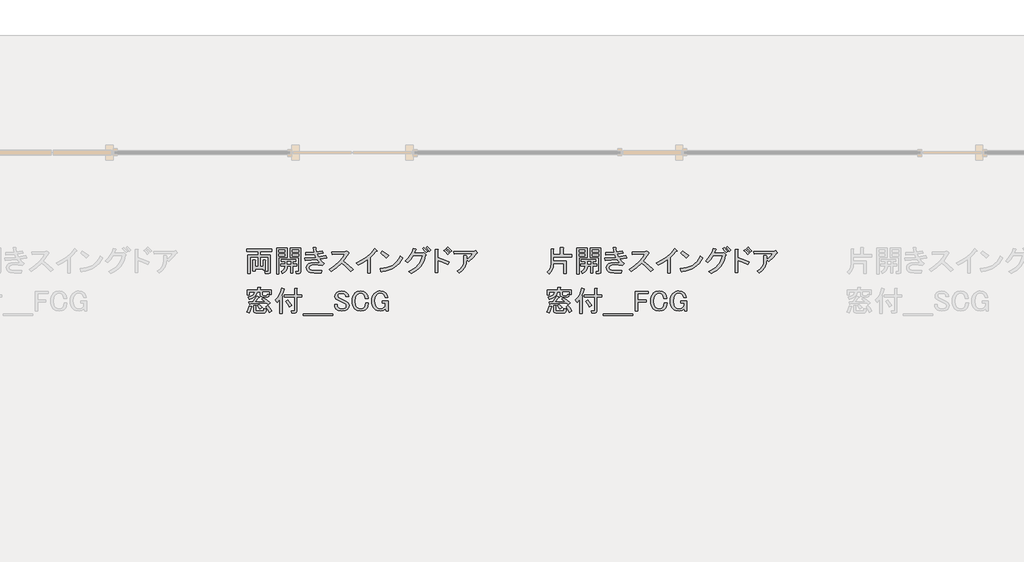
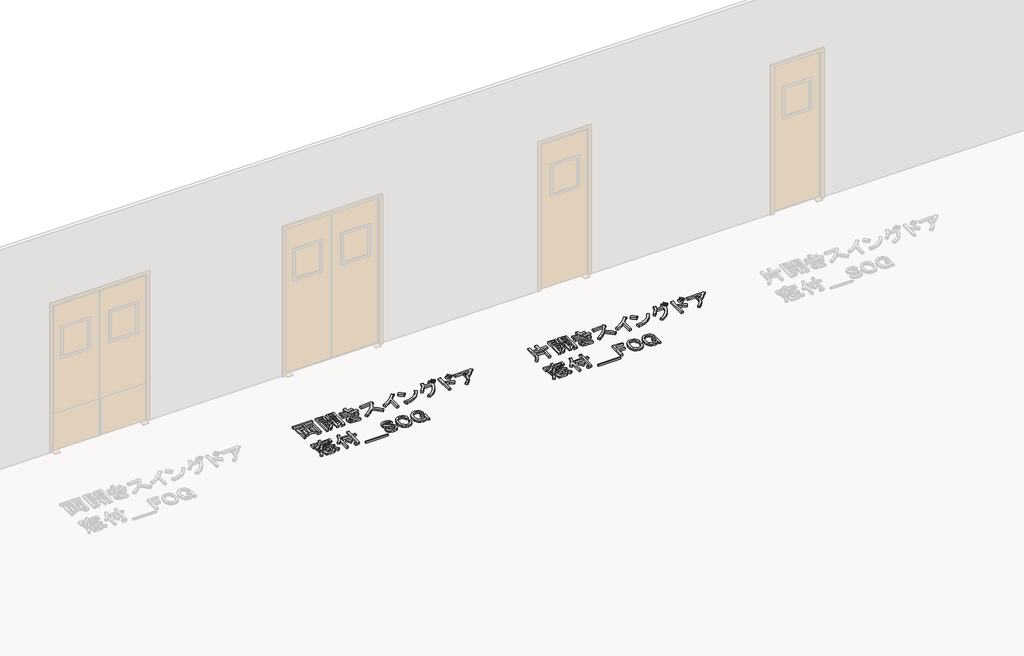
# One storey, part 78 of 117: 2 proxies.
"""IFC4 building model written with IfcOpenShell, lengths in millimetres."""

from ifc_helpers import new_model, si_unit, frame, origin, place, context, project, spatial, polyline, outline, extrude, element, save

model = new_model("IFC4")

# Units and contexts
model_context = context("Model", 3, world=origin())
ifc_project = project(units=[si_unit("LENGTHUNIT", "METRE", prefix="MILLI")], contexts=[model_context])

# Site, building, storey
site = spatial("IfcSite", under=ifc_project)
building = spatial("IfcBuilding", under=site)
storey = spatial("IfcBuildingStorey", under=building, Name="レベル 1", Elevation=500.0)

# Proxies
placement = place(None, origin())
element("IfcBuildingElementProxy", 1, Name="200㎜\u3000MS Pゴシック", ObjectType="200㎜\u3000MS Pゴシック", at=placement, inside=storey, context=model_context, shape_type="SweptSolid", body=[
    extrude(outline(polyline([(-21019.8425516, 31011.7252868), (-21019.8425516, 30976.0920778), (-20918.6902167, 30976.0920778), (-20918.6902167, 30807.1217001), (-20922.7133209, 30795.0523874), (-20934.7826336, 30791.0292832), (-20970.4158425, 30791.0292832), (-20973.8642176, 30812.8689919), (-20946.2772171, 30812.8689919), (-20942.8288421, 30814.0184502), (-20941.6793837, 30817.4668253), (-20941.6793837, 30954.2523692), (-21019.8425516, 30954.2523692), (-21019.8425516, 30858.8473259), (-20992.2555512, 30858.8473259), (-20992.2555512, 30924.366452), (-20970.4158425, 30924.366452), (-20965.5306445, 30922.0675353), (-20969.2663841, 30917.4697019), (-20969.2663841, 30826.6624921), (-20992.2555512, 30826.6624921), (-20992.2555512, 30837.0076172), (-21070.4187191, 30837.0076172), (-21070.4187191, 30817.4668253), (-21093.4078862, 30817.4668253), (-21093.4078862, 30924.366452), (-21071.5681775, 30924.366452), (-21066.6829795, 30922.0675353), (-21070.4187191, 30917.4697019), (-21070.4187191, 30858.8473259), (-21042.8317187, 30858.8473259), (-21042.8317187, 30954.2523692), (-21120.9948866, 30954.2523692), (-21120.9948866, 30792.1787415), (-21143.9840537, 30792.1787415), (-21143.9840537, 30976.0920778), (-21042.8317187, 30976.0920778), (-21042.8317187, 31011.7252868), (-21157.7775539, 31011.7252868), (-21157.7775539, 31033.5649954), (-20904.8967164, 31033.5649954), (-20904.8967164, 31011.7252868), (-21019.8425516, 31011.7252868)])), frame((0.0, 0.0, 500.0), z_axis=(0.0, 0.0, 1.0), x_axis=(1.0, 0.0, 0.0)), (0.0, 0.0, 1.0), 25.0),
    extrude(outline(polyline([(-20722.1328385, 31043.9101206), (-20614.0837534, 31043.9101206), (-20614.0837534, 30809.4206168), (-20618.6815868, 30795.6271166), (-20632.475087, 30791.0292832), (-20660.0620874, 30791.0292832), (-20663.5104625, 30812.8689919), (-20641.6707538, 30812.8689919), (-20638.2223788, 30814.0184502), (-20637.0729204, 30817.4668253), (-20637.0729204, 30948.5050774), (-20679.6028794, 30948.5050774), (-20722.1328385, 30948.5050774), (-20722.1328385, 31043.9101206)]), holes=[polyline([(-20637.0729204, 31004.8285366), (-20637.0729204, 31025.518787), (-20699.1436714, 31025.518787), (-20699.1436714, 31004.8285366), (-20637.0729204, 31004.8285366)]), polyline([(-20699.1436714, 30966.896411), (-20637.0729204, 30966.896411), (-20637.0729204, 30986.437203), (-20699.1436714, 30986.437203), (-20699.1436714, 30966.896411)])]), frame((0.0, 0.0, 500.0), z_axis=(0.0, 0.0, 1.0), x_axis=(1.0, 0.0, 0.0)), (0.0, 0.0, 1.0), 25.0),
    extrude(outline(polyline([(-20817.5378817, 30865.7440761), (-20817.5378817, 30884.1354097), (-20771.5595476, 30884.1354097), (-20771.5595476, 30911.7224101), (-20809.4916732, 30911.7224101), (-20809.4916732, 30930.1137438), (-20664.6599209, 30930.1137438), (-20664.6599209, 30911.7224101), (-20694.545838, 30911.7224101), (-20694.545838, 30884.1354097), (-20655.464254, 30884.1354097), (-20655.464254, 30865.7440761), (-20694.545838, 30865.7440761), (-20694.545838, 30796.7765749), (-20717.5350051, 30796.7765749), (-20717.5350051, 30865.7440761), (-20748.5703806, 30865.7440761), (-20750.9411384, 30842.1083387), (-20760.3523287, 30821.7772941), (-20776.8039513, 30804.7509422), (-20800.2960064, 30791.0292832), (-20811.7905899, 30812.8689919), (-20794.1895089, 30821.7772941), (-20781.6173082, 30833.5592422), (-20774.0739877, 30848.2148362), (-20771.5595476, 30865.7440761), (-20817.5378817, 30865.7440761)]), holes=[polyline([(-20717.5350051, 30884.1354097), (-20717.5350051, 30911.7224101), (-20748.5703806, 30911.7224101), (-20748.5703806, 30884.1354097), (-20717.5350051, 30884.1354097)])]), frame((0.0, 0.0, 500.0), z_axis=(0.0, 0.0, 1.0), x_axis=(1.0, 0.0, 0.0)), (0.0, 0.0, 1.0), 25.0),
    extrude(outline(polyline([(-20753.168214, 30948.5050774), (-20833.6302986, 30948.5050774), (-20833.6302986, 30787.5809081), (-20856.6194656, 30787.5809081), (-20856.6194656, 31043.9101206), (-20753.168214, 31043.9101206), (-20753.168214, 30948.5050774)]), holes=[polyline([(-20776.157381, 31025.518787), (-20833.6302986, 31025.518787), (-20833.6302986, 31004.8285366), (-20776.157381, 31004.8285366), (-20776.157381, 31025.518787)]), polyline([(-20833.6302986, 30966.896411), (-20776.157381, 30966.896411), (-20776.157381, 30986.437203), (-20833.6302986, 30986.437203), (-20833.6302986, 30966.896411)])]), frame((0.0, 0.0, 500.0), z_axis=(0.0, 0.0, 1.0), x_axis=(1.0, 0.0, 0.0)), (0.0, 0.0, 1.0), 25.0),
    extrude(outline(polyline([(-20453.1595841, 30982.988828), (-20439.3660839, 30954.2523692), (-20366.9502077, 30970.3447861), (-20356.6050825, 30946.2061607), (-20426.722042, 30933.5621188), (-20406.8938854, 30911.147681), (-20381.8931663, 30889.8827014), (-20401.4339582, 30870.3419095), (-20438.5039901, 30877.2386596), (-20466.9530843, 30879.5375763), (-20504.8852099, 30876.0892012), (-20517.8166164, 30871.7787324), (-20526.7249186, 30865.7440761), (-20532.759575, 30857.410503), (-20534.7711271, 30848.5022008), (-20533.0469395, 30838.1570756), (-20527.874377, 30830.1108671), (-20510.3451371, 30823.214117), (-20476.1487511, 30820.9152003), (-20406.0317916, 30820.9152003), (-20410.6296251, 30795.6271166), (-20480.7465845, 30795.6271166), (-20519.8281685, 30800.22495), (-20534.1963979, 30805.9722417), (-20545.1162522, 30814.0184502), (-20555.4613774, 30829.8235025), (-20558.9097525, 30849.6516591), (-20555.748742, 30865.7440761), (-20546.2657106, 30879.5375763), (-20533.9090333, 30888.0866728), (-20516.3797934, 30894.1931703), (-20465.803626, 30899.0783683), (-20424.4231253, 30895.6299932), (-20453.1595841, 30928.9642854), (-20509.7704079, 30923.7917228), (-20571.5537943, 30922.0675353), (-20575.0021694, 30946.2061607), (-20518.103981, 30946.7808899), (-20464.6541676, 30950.8039941), (-20477.2982095, 30979.5404529), (-20565.8065026, 30976.0920778), (-20568.1054193, 30999.0812449), (-20483.0455012, 31001.3801616), (-20492.2411681, 31048.507954), (-20466.9530843, 31048.507954), (-20460.918428, 31045.059579), (-20465.803626, 31039.3122872), (-20460.0563342, 31004.8285366), (-20399.1350415, 31016.3231202), (-20391.0888331, 30993.3339531), (-20453.1595841, 30982.988828)])), frame((0.0, 0.0, 500.0), z_axis=(0.0, 0.0, 1.0), x_axis=(1.0, 0.0, 0.0)), (0.0, 0.0, 1.0), 25.0),
    extrude(outline(polyline([(-20188.7381848, 30917.4697019), (-20139.5988402, 30876.6639304), (-20091.0342249, 30830.1108671), (-20114.0233919, 30810.5700752), (-20161.4385489, 30857.1231384), (-20207.1295184, 30895.6299932), (-20255.1194046, 30849.9390237), (-20309.4313117, 30809.4206168), (-20331.2710204, 30828.9614088), (-20275.8096549, 30868.6177219), (-20231.2681438, 30908.2740351), (-20197.646487, 30947.9303482), (-20174.9446846, 30987.5866614), (-20300.2356449, 30979.5404529), (-20303.68402, 31007.1274534), (-20170.3468511, 31012.8747451), (-20156.5533509, 31016.3231202), (-20138.1620173, 30997.9317865), (-20135.2883714, 30991.322401), (-20142.7598507, 30987.5866614), (-20188.7381848, 30917.4697019)])), frame((0.0, 0.0, 500.0), z_axis=(0.0, 0.0, 1.0), x_axis=(1.0, 0.0, 0.0)), (0.0, 0.0, 1.0), 25.0),
    extrude(outline(polyline([(-20060.6885244, 30896.7794516), (-20004.0058594, 30924.6538166), (-19954.6509914, 30957.7007442), (-19912.6239204, 30995.9202344), (-19877.9246464, 31039.3122872), (-19856.0849377, 31020.9209536), (-19853.4986564, 31014.8862972), (-19864.1311462, 31010.5758284), (-19889.1318653, 30981.552005), (-19920.4546054, 30951.9534525), (-19920.4546054, 30795.6271166), (-19946.8921475, 30795.6271166), (-19946.8921475, 30930.1137438), (-19990.5715649, 30900.5151912), (-20041.1477324, 30873.7902845), (-20060.6885244, 30896.7794516)])), frame((0.0, 0.0, 500.0), z_axis=(0.0, 0.0, 1.0), x_axis=(1.0, 0.0, 0.0)), (0.0, 0.0, 1.0), 25.0),
    extrude(outline(polyline([(-19597.5487652, 30946.2061607), (-19614.072229, 30916.4639258), (-19633.1819741, 30890.4574306), (-19654.8780005, 30868.186675), (-19679.1603081, 30849.6516591), (-19706.0288971, 30834.8523828), (-19735.4837674, 30823.7888462), (-19767.524919, 30816.4610492), (-19802.1523518, 30812.8689919), (-19807.8996436, 30804.8227834), (-19813.6469353, 30810.5700752), (-19822.8426022, 30840.4559923), (-19787.0118301, 30843.132075), (-19754.2343068, 30849.4361357), (-19724.5100322, 30859.3681743), (-19697.8390064, 30872.9281908), (-19674.2212293, 30890.1161852), (-19653.656701, 30910.9321575), (-19636.1454214, 30935.3761078), (-19621.6873905, 30963.448036), (-19597.5487652, 30946.2061607)])), frame((0.0, 0.0, 500.0), z_axis=(0.0, 0.0, 1.0), x_axis=(1.0, 0.0, 0.0)), (0.0, 0.0, 1.0), 25.0),
    extrude(outline(polyline([(-19759.6223928, 30946.2061607), (-19818.2447687, 30993.3339531), (-19798.7039768, 31017.4725785), (-19771.4043409, 30997.6444219), (-19737.7826841, 30968.0458694), (-19759.6223928, 30946.2061607)])), frame((0.0, 0.0, 500.0), z_axis=(0.0, 0.0, 1.0), x_axis=(1.0, 0.0, 0.0)), (0.0, 0.0, 1.0), 25.0),
    extrude(outline(polyline([(-19362.875348, 30997.9317865), (-19380.979317, 31021.2083182), (-19398.5085569, 31038.1628289), (-19383.5655983, 31050.8068707), (-19346.7829311, 31010.5758284), (-19362.875348, 30997.9317865)])), frame((0.0, 0.0, 500.0), z_axis=(0.0, 0.0, 1.0), x_axis=(1.0, 0.0, 0.0)), (0.0, 0.0, 1.0), 25.0),
    extrude(outline(polyline([(-19329.5410558, 31011.7252868), (-19362.875348, 31048.507954), (-19349.0818478, 31062.3014543), (-19315.7475556, 31025.518787), (-19329.5410558, 31011.7252868)])), frame((0.0, 0.0, 500.0), z_axis=(0.0, 0.0, 1.0), x_axis=(1.0, 0.0, 0.0)), (0.0, 0.0, 1.0), 25.0),
    extrude(outline(polyline([(-19369.7720981, 30970.3447861), (-19376.7945702, 30940.1355838), (-19386.9421322, 30912.153457), (-19400.2147842, 30886.3984058), (-19416.612526, 30862.8704302), (-19436.1353577, 30841.5695301), (-19458.7832793, 30822.4957056), (-19484.5562907, 30805.6489566), (-19513.4543921, 30791.0292832), (-19534.1446425, 30812.8689919), (-19483.4247927, 30840.0249454), (-19462.2675749, 30856.7280121), (-19443.9121618, 30875.514472), (-19428.3585535, 30896.3843252), (-19415.6067499, 30919.3375717), (-19405.656751, 30944.3742114), (-19398.5085569, 30971.4942444), (-19490.4652251, 30971.4942444), (-19517.4774964, 30932.1252959), (-19545.639226, 30901.377285), (-19568.628393, 30916.3202435), (-19541.4005983, 30944.4819732), (-19519.4890485, 30974.9426195), (-19502.8937435, 31007.7021825), (-19491.6146834, 31042.7606623), (-19465.1771413, 31033.5649954), (-19462.3034955, 31030.1166204), (-19467.476058, 31026.6682453), (-19480.1200999, 30996.7823282), (-19397.3590986, 30996.7823282), (-19387.0139734, 31002.5296199), (-19366.3237231, 30981.8393696), (-19363.1627126, 30974.9426195), (-19369.7720981, 30970.3447861)])), frame((0.0, 0.0, 500.0), z_axis=(0.0, 0.0, 1.0), x_axis=(1.0, 0.0, 0.0)), (0.0, 0.0, 1.0), 25.0),
    extrude(outline(polyline([(-19120.7534407, 31003.6790783), (-19137.7079514, 31022.9325057), (-19158.6855663, 31041.6112039), (-19143.7426078, 31053.1057874), (-19124.4891804, 31036.7260059), (-19105.8104822, 31015.1736618), (-19120.7534407, 31003.6790783)])), frame((0.0, 0.0, 500.0), z_axis=(0.0, 0.0, 1.0), x_axis=(1.0, 0.0, 0.0)), (0.0, 0.0, 1.0), 25.0),
    extrude(outline(polyline([(-19146.0415245, 30880.6870346), (-19201.50289, 30906.5498475), (-19246.0444011, 30922.0675353), (-19246.0444011, 30802.5238667), (-19272.4819432, 30802.5238667), (-19272.4819432, 31032.4155371), (-19249.4927762, 31032.4155371), (-19241.7339323, 31029.5418912), (-19246.0444011, 31023.2198703), (-19246.0444011, 30950.8039941), (-19189.4335773, 30931.8379313), (-19132.2480242, 30907.1245767), (-19146.0415245, 30880.6870346)])), frame((0.0, 0.0, 500.0), z_axis=(0.0, 0.0, 1.0), x_axis=(1.0, 0.0, 0.0)), (0.0, 0.0, 1.0), 25.0),
    extrude(outline(polyline([(-19148.3404412, 30981.8393696), (-19167.8812332, 31003.6790783), (-19187.4220251, 31020.9209536), (-19172.4790666, 31032.4155371), (-19152.9382746, 31015.1736618), (-19133.3974826, 30993.3339531), (-19148.3404412, 30981.8393696)])), frame((0.0, 0.0, 500.0), z_axis=(0.0, 0.0, 1.0), x_axis=(1.0, 0.0, 0.0)), (0.0, 0.0, 1.0), 25.0),
    extrude(outline(polyline([(-18957.8062247, 30930.1137438), (-18961.6138055, 30888.8769254), (-18975.3354646, 30852.525305), (-18998.971202, 30821.0588826), (-19032.5210176, 30794.4776582), (-19052.0618096, 30816.3173669), (-19022.3914159, 30836.5765704), (-19001.1982775, 30860.5715135), (-18988.4823945, 30888.3021962), (-18984.2437668, 30919.7686186), (-18984.2437668, 30969.1953277), (-18960.1051414, 30969.1953277), (-18954.3578497, 30966.6090464), (-18957.8062247, 30961.1491193), (-18957.8062247, 30931.2632021), (-18921.3109221, 30962.011213), (-18894.5860154, 30992.1844948), (-19081.9477268, 30985.2877447), (-19084.2466435, 31011.7252868), (-18875.0452234, 31017.4725785), (-18866.9990149, 31019.7714952), (-18849.7571396, 30999.0812449), (-18849.4697751, 30995.9202344), (-18855.5044314, 30995.6328698), (-18893.436557, 30952.240817), (-18938.2654328, 30911.7224101), (-18957.8062247, 30930.1137438)])), frame((0.0, 0.0, 500.0), z_axis=(0.0, 0.0, 1.0), x_axis=(1.0, 0.0, 0.0)), (0.0, 0.0, 1.0), 25.0),
    extrude(outline(polyline([(-21024.440385, 30433.5592422), (-21034.210781, 30449.6516591), (-21049.7284688, 30468.0429928), (-21030.1876768, 30480.6870346), (-21015.8194474, 30466.8935344), (-21002.6006764, 30448.5022008), (-21024.440385, 30433.5592422)])), frame((0.0, 0.0, 500.0), z_axis=(0.0, 0.0, 1.0), x_axis=(1.0, 0.0, 0.0)), (0.0, 0.0, 1.0), 25.0),
    extrude(outline(polyline([(-21155.4786372, 30405.9722417), (-21140.248314, 30437.869711), (-21131.3400118, 30466.8935344), (-21108.3508447, 30458.8473259), (-21106.3392926, 30455.3989509), (-21109.5003031, 30451.9505758), (-21119.2706991, 30421.4899295), (-21132.4894701, 30394.4776582), (-21155.4786372, 30405.9722417)])), frame((0.0, 0.0, 500.0), z_axis=(0.0, 0.0, 1.0), x_axis=(1.0, 0.0, 0.0)), (0.0, 0.0, 1.0), 25.0),
    extrude(outline(polyline([(-20909.4945498, 30624.3693286), (-20909.4945498, 30579.5404529), (-20929.0353418, 30579.5404529), (-20937.9436441, 30560.5743901), (-20944.768553, 30555.8328744), (-20953.1739672, 30554.2523692), (-21001.451218, 30554.2523692), (-21014.3826245, 30558.8502026), (-21018.6930933, 30572.6437028), (-21018.6930933, 30605.977995), (-21053.1768438, 30605.977995), (-21058.5649299, 30582.8451457), (-21073.5797296, 30562.8733068), (-21098.221243, 30546.0624784), (-21132.4894701, 30532.4126605), (-21139.3862203, 30554.2523692), (-21111.7273787, 30563.950924), (-21091.9710632, 30575.8047133), (-21080.117274, 30589.8137369), (-21076.1660109, 30605.977995), (-21130.1905534, 30605.977995), (-21130.1905534, 30573.7931611), (-21153.1797205, 30573.7931611), (-21153.1797205, 30624.3693286), (-21043.981177, 30624.3693286), (-21043.981177, 30651.9563291), (-21022.1414683, 30651.9563291), (-21017.2562703, 30649.6574124), (-21020.99201, 30645.059579), (-21020.99201, 30624.3693286), (-20909.4945498, 30624.3693286)]), holes=[polyline([(-20960.0707173, 30572.6437028), (-20953.4613318, 30576.0920778), (-20949.7255922, 30586.437203), (-20932.4837169, 30581.8393696), (-20932.4837169, 30605.977995), (-20995.7039262, 30605.977995), (-20995.7039262, 30579.5404529), (-20993.9797387, 30574.3678903), (-20988.8071761, 30572.6437028), (-20960.0707173, 30572.6437028)])]), frame((0.0, 0.0, 500.0), z_axis=(0.0, 0.0, 1.0), x_axis=(1.0, 0.0, 0.0)), (0.0, 0.0, 1.0), 25.0),
    extrude(outline(polyline([(-21066.9703441, 30393.3281999), (-21082.4880318, 30398.2133979), (-21086.3674538, 30404.3198954), (-21087.6605944, 30412.8689919), (-21087.6605944, 30470.3419095), (-21065.8208857, 30470.3419095), (-21060.9356877, 30468.0429928), (-21064.6714274, 30463.4451593), (-21064.6714274, 30423.214117), (-21062.9472398, 30417.1794607), (-21057.7746773, 30415.1679086), (-20996.8533846, 30415.1679086), (-20991.7526632, 30416.7484138), (-20987.9450824, 30421.4899295), (-20984.2093427, 30440.4559923), (-20958.921259, 30434.7087005), (-20961.7949049, 30416.6047315), (-20966.9674674, 30403.673325), (-20974.4389467, 30395.9144812), (-20984.2093427, 30393.3281999), (-21066.9703441, 30393.3281999)])), frame((0.0, 0.0, 500.0), z_axis=(0.0, 0.0, 1.0), x_axis=(1.0, 0.0, 0.0)), (0.0, 0.0, 1.0), 25.0),
    extrude(outline(polyline([(-21122.144345, 30484.1354097), (-21124.1558971, 30479.2502117), (-21127.8916367, 30480.6870346), (-21133.6389285, 30505.9751184), (-21098.0057196, 30505.9751184), (-21054.3263022, 30566.896411), (-21031.3371352, 30553.1029108), (-21032.1992289, 30549.3671712), (-21037.0844269, 30549.6545358), (-21076.1660109, 30505.9751184), (-20977.3125926, 30511.7224101), (-21008.3479681, 30533.5621188), (-20993.4050095, 30546.2061607), (-20961.7949049, 30528.3895562), (-20922.1385917, 30495.6299932), (-20942.8288421, 30479.5375763), (-20958.921259, 30495.6299932), (-21122.144345, 30484.1354097)])), frame((0.0, 0.0, 500.0), z_axis=(0.0, 0.0, 1.0), x_axis=(1.0, 0.0, 0.0)), (0.0, 0.0, 1.0), 25.0),
    extrude(outline(polyline([(-20945.1277588, 30470.3419095), (-20923.5754147, 30443.9043674), (-20907.1956331, 30415.1679086), (-20930.1848002, 30400.22495), (-20945.4151233, 30431.2603255), (-20963.5190924, 30457.6978676), (-20945.1277588, 30470.3419095)])), frame((0.0, 0.0, 500.0), z_axis=(0.0, 0.0, 1.0), x_axis=(1.0, 0.0, 0.0)), (0.0, 0.0, 1.0), 25.0),
    extrude(outline(polyline([(-20784.2035895, 30627.8177037), (-20792.8245271, 30599.0812449), (-20804.8938398, 30570.3447861), (-20798.5718189, 30566.896411), (-20802.5949231, 30561.1491193), (-20802.5949231, 30391.0292832), (-20825.5840901, 30391.0292832), (-20825.5840901, 30533.5621188), (-20850.8721739, 30502.5267433), (-20869.2635075, 30523.2169937), (-20846.7053874, 30548.4332363), (-20828.457736, 30576.9541716), (-20814.5205535, 30608.7797997), (-20804.8938398, 30643.9101206), (-20780.7552144, 30634.7144538), (-20779.3183915, 30630.6913496), (-20784.2035895, 30627.8177037)])), frame((0.0, 0.0, 500.0), z_axis=(0.0, 0.0, 1.0), x_axis=(1.0, 0.0, 0.0)), (0.0, 0.0, 1.0), 25.0),
    extrude(outline(polyline([(-20677.3039627, 30577.2415362), (-20677.3039627, 30642.7606623), (-20655.464254, 30642.7606623), (-20650.579056, 30640.4617456), (-20654.3147957, 30635.8639122), (-20654.3147957, 30577.2415362), (-20607.1870033, 30577.2415362), (-20607.1870033, 30555.4018275), (-20654.3147957, 30555.4018275), (-20654.3147957, 30412.8689919), (-20658.9126291, 30399.0754916), (-20672.7061293, 30394.4776582), (-20707.1898799, 30394.4776582), (-20712.9371716, 30416.3173669), (-20681.9017961, 30416.3173669), (-20678.4534211, 30417.4668253), (-20677.3039627, 30420.9152003), (-20677.3039627, 30555.4018275), (-20780.7552144, 30555.4018275), (-20780.7552144, 30577.2415362), (-20677.3039627, 30577.2415362)])), frame((0.0, 0.0, 500.0), z_axis=(0.0, 0.0, 1.0), x_axis=(1.0, 0.0, 0.0)), (0.0, 0.0, 1.0), 25.0),
    extrude(outline(polyline([(-20743.9725471, 30525.5159104), (-20708.3393382, 30471.4913678), (-20731.3285053, 30456.5484092), (-20747.9956514, 30487.0090556), (-20765.8122558, 30511.7224101), (-20743.9725471, 30525.5159104)])), frame((0.0, 0.0, 500.0), z_axis=(0.0, 0.0, 1.0), x_axis=(1.0, 0.0, 0.0)), (0.0, 0.0, 1.0), 25.0),
    extrude(outline(polyline([(-20589.945128, 30385.2819914), (-20296.8332482, 30385.2819914), (-20296.8332482, 30372.6379495), (-20589.945128, 30372.6379495), (-20589.945128, 30385.2819914)])), frame((0.0, 0.0, 500.0), z_axis=(0.0, 0.0, 1.0), x_axis=(1.0, 0.0, 0.0)), (0.0, 0.0, 1.0), 25.0),
    extrude(outline(polyline([(-20273.8440812, 30561.1491193), (-20269.8209769, 30581.552005), (-20257.7516642, 30599.0812449), (-20237.3487785, 30611.1505576), (-20208.3249551, 30615.1736618), (-20177.002215, 30610.5758284), (-20154.3004126, 30596.7823282), (-20142.2310999, 30579.2530883), (-20138.2079956, 30558.8502026), (-20164.6455377, 30558.8502026), (-20166.9444544, 30571.4942444), (-20173.8412045, 30581.8393696), (-20187.0599756, 30589.5982135), (-20206.0260384, 30592.1844948), (-20226.4289241, 30589.8855781), (-20239.3603306, 30582.988828), (-20245.3949869, 30574.3678903), (-20247.4065391, 30564.5974943), (-20242.8087057, 30549.6545358), (-20222.1184553, 30538.1599522), (-20162.346621, 30511.7224101), (-20145.1047457, 30500.2278266), (-20135.6217143, 30486.4343264), (-20132.4607039, 30470.3419095), (-20136.4838081, 30449.0769299), (-20148.5531208, 30431.2603255), (-20158.5390402, 30423.7170051), (-20171.2549232, 30418.328919), (-20204.87658, 30414.0184502), (-20238.4982368, 30419.1910128), (-20252.0762136, 30425.656716), (-20263.498956, 30434.7087005), (-20274.7061749, 30453.1000342), (-20278.4419146, 30478.3881179), (-20252.0043725, 30478.3881179), (-20249.7054558, 30460.5715135), (-20242.8087057, 30448.5022008), (-20226.7162887, 30439.0191694), (-20203.7271217, 30435.8581589), (-20182.7495068, 30438.7318048), (-20168.0939128, 30447.3527424), (-20161.1971627, 30456.5484092), (-20158.898246, 30465.7440761), (-20160.6224335, 30475.2271075), (-20165.7949961, 30482.9859513), (-20184.1863297, 30494.4805349), (-20214.0722469, 30508.2740351), (-20247.4065391, 30523.2169937), (-20263.498956, 30533.5621188), (-20271.2577999, 30545.6314315), (-20273.8440812, 30561.1491193)])), frame((0.0, 0.0, 500.0), z_axis=(0.0, 0.0, 1.0), x_axis=(1.0, 0.0, 0.0)), (0.0, 0.0, 1.0), 25.0),
    extrude(outline(polyline([(-20103.03457, 30514.0213268), (-20101.2385414, 30537.9444288), (-20095.8504553, 30559.1375672), (-20086.870312, 30577.6007419), (-20074.2981112, 30593.3339531), (-20049.2973921, 30609.7137346), (-20017.974652, 30615.1736618), (-19987.2266411, 30610.2884638), (-19963.9501095, 30595.6328698), (-19948.1450571, 30572.0689736), (-19942.1104008, 30542.7577856), (-19969.6974012, 30542.7577856), (-19974.5825992, 30564.0227652), (-19984.6403598, 30579.5404529), (-19999.870683, 30589.8855781), (-20017.974652, 30593.3339531), (-20037.515444, 30589.3108489), (-20054.7573193, 30577.2415362), (-20063.8093038, 30565.5314292), (-20070.275007, 30551.0913587), (-20075.4475696, 30514.0213268), (-20070.275007, 30476.951295), (-20063.8093038, 30462.5112244), (-20054.7573193, 30450.8011175), (-20038.0901732, 30439.5938985), (-20017.974652, 30435.8581589), (-19997.5717662, 30439.0191694), (-19982.3414431, 30448.5022008), (-19970.2721304, 30468.0429928), (-19966.2490262, 30494.4805349), (-19938.6620257, 30494.4805349), (-19944.9840466, 30459.7094197), (-19952.024479, 30445.5567137), (-19961.6511927, 30433.5592422), (-19972.4992059, 30425.0101457), (-19985.5024536, 30418.9036482), (-20017.974652, 30414.0184502), (-20049.2973921, 30419.4783774), (-20074.2981112, 30435.8581589), (-20086.870312, 30451.5195289), (-20095.8504553, 30469.7671803), (-20101.2385414, 30490.6011129), (-20103.03457, 30514.0213268)])), frame((0.0, 0.0, 500.0), z_axis=(0.0, 0.0, 1.0), x_axis=(1.0, 0.0, 0.0)), (0.0, 0.0, 1.0), 25.0),
    extrude(outline(polyline([(-19906.5231702, 30514.0213268), (-19904.8708238, 30537.8007465), (-19899.9137847, 30558.562838), (-19891.6520528, 30576.3076013), (-19880.0856281, 30591.0350364), (-19867.3697451, 30601.595685), (-19853.3607214, 30609.1390055), (-19838.0585571, 30613.6649977), (-19821.4632521, 30615.1736618), (-19790.140512, 30609.7137346), (-19765.1397929, 30593.3339531), (-19751.0589281, 30572.9310674), (-19745.5990009, 30548.5050774), (-19773.1860013, 30548.5050774), (-19777.2091056, 30566.3216819), (-19786.9795016, 30580.6899113), (-19801.9224601, 30590.1729427), (-19821.4632521, 30593.3339531), (-19841.5787733, 30589.5982135), (-19858.2459194, 30578.3909946), (-19867.2979039, 30566.6090464), (-19873.7636072, 30551.9534525), (-19878.9361697, 30514.0213268), (-19873.4762426, 30477.5260242), (-19866.6513336, 30462.9422713), (-19857.096461, 30450.8011175), (-19839.2798566, 30439.5938985), (-19815.7159604, 30435.8581589), (-19797.8993559, 30439.0191694), (-19783.5311265, 30448.5022008), (-19773.4733659, 30461.4336072), (-19768.5881679, 30474.9397429), (-19768.5881679, 30493.3310765), (-19801.9224601, 30493.3310765), (-19801.9224601, 30515.1707852), (-19742.1506258, 30515.1707852), (-19742.1506258, 30414.0184502), (-19761.6914178, 30414.0184502), (-19768.5881679, 30433.5592422), (-19790.7152412, 30418.9036482), (-19818.0148771, 30414.0184502), (-19851.3491693, 30419.765742), (-19865.4300341, 30426.9498567), (-19877.7867114, 30437.0076172), (-19890.3589121, 30452.5971461), (-19899.3390555, 30470.629274), (-19904.7271415, 30491.1040009), (-19906.5231702, 30514.0213268)])), frame((0.0, 0.0, 500.0), z_axis=(0.0, 0.0, 1.0), x_axis=(1.0, 0.0, 0.0)), (0.0, 0.0, 1.0), 25.0),
])
element("IfcBuildingElementProxy", 2, Name="200㎜\u3000MS Pゴシック", ObjectType="200㎜\u3000MS Pゴシック", at=placement, inside=storey, context=model_context, shape_type="SweptSolid", body=[
    extrude(outline(polyline([(-18091.1089695, 31037.0133705), (-18085.0743131, 31033.5649954), (-18089.9595111, 31027.8177037), (-18089.9595111, 30979.5404529), (-18018.6930933, 30979.5404529), (-18018.6930933, 31048.507954), (-17993.4050095, 31048.507954), (-17987.3703532, 31045.059579), (-17992.2555512, 31039.3122872), (-17992.2555512, 30979.5404529), (-17907.1956331, 30979.5404529), (-17907.1956331, 30954.2523692), (-18089.9595111, 30954.2523692), (-18089.9595111, 30917.4697019), (-17960.0707173, 30917.4697019), (-17960.0707173, 30788.7303665), (-17986.5082594, 30788.7303665), (-17986.5082594, 30892.1816181), (-18089.9595111, 30892.1816181), (-18089.9595111, 30880.6870346), (-18092.6894747, 30853.7466045), (-18100.8793655, 30829.2487734), (-18114.5291834, 30807.1935412), (-18133.6389285, 30787.5809081), (-18152.0302621, 30805.9722417), (-18134.9320691, 30821.5617706), (-18122.7190741, 30839.5938985), (-18115.3912772, 30860.0686254), (-18112.9486782, 30882.9859513), (-18112.9486782, 31037.0133705), (-18091.1089695, 31037.0133705)])), frame((0.0, 0.0, 500.0), z_axis=(0.0, 0.0, 1.0), x_axis=(1.0, 0.0, 0.0)), (0.0, 0.0, 1.0), 25.0),
    extrude(outline(polyline([(-17817.5378817, 30865.7440761), (-17817.5378817, 30884.1354097), (-17771.5595476, 30884.1354097), (-17771.5595476, 30911.7224101), (-17809.4916732, 30911.7224101), (-17809.4916732, 30930.1137438), (-17664.6599209, 30930.1137438), (-17664.6599209, 30911.7224101), (-17694.545838, 30911.7224101), (-17694.545838, 30884.1354097), (-17655.464254, 30884.1354097), (-17655.464254, 30865.7440761), (-17694.545838, 30865.7440761), (-17694.545838, 30796.7765749), (-17717.5350051, 30796.7765749), (-17717.5350051, 30865.7440761), (-17748.5703806, 30865.7440761), (-17750.9411384, 30842.1083387), (-17760.3523287, 30821.7772941), (-17776.8039513, 30804.7509422), (-17800.2960064, 30791.0292832), (-17811.7905899, 30812.8689919), (-17794.1895089, 30821.7772941), (-17781.6173082, 30833.5592422), (-17774.0739877, 30848.2148362), (-17771.5595476, 30865.7440761), (-17817.5378817, 30865.7440761)]), holes=[polyline([(-17717.5350051, 30884.1354097), (-17717.5350051, 30911.7224101), (-17748.5703806, 30911.7224101), (-17748.5703806, 30884.1354097), (-17717.5350051, 30884.1354097)])]), frame((0.0, 0.0, 500.0), z_axis=(0.0, 0.0, 1.0), x_axis=(1.0, 0.0, 0.0)), (0.0, 0.0, 1.0), 25.0),
    extrude(outline(polyline([(-17753.168214, 30948.5050774), (-17833.6302986, 30948.5050774), (-17833.6302986, 30787.5809081), (-17856.6194656, 30787.5809081), (-17856.6194656, 31043.9101206), (-17753.168214, 31043.9101206), (-17753.168214, 30948.5050774)]), holes=[polyline([(-17776.157381, 31025.518787), (-17833.6302986, 31025.518787), (-17833.6302986, 31004.8285366), (-17776.157381, 31004.8285366), (-17776.157381, 31025.518787)]), polyline([(-17833.6302986, 30966.896411), (-17776.157381, 30966.896411), (-17776.157381, 30986.437203), (-17833.6302986, 30986.437203), (-17833.6302986, 30966.896411)])]), frame((0.0, 0.0, 500.0), z_axis=(0.0, 0.0, 1.0), x_axis=(1.0, 0.0, 0.0)), (0.0, 0.0, 1.0), 25.0),
    extrude(outline(polyline([(-17722.1328385, 31043.9101206), (-17614.0837534, 31043.9101206), (-17614.0837534, 30809.4206168), (-17618.6815868, 30795.6271166), (-17632.475087, 30791.0292832), (-17660.0620874, 30791.0292832), (-17663.5104625, 30812.8689919), (-17641.6707538, 30812.8689919), (-17638.2223788, 30814.0184502), (-17637.0729204, 30817.4668253), (-17637.0729204, 30948.5050774), (-17679.6028794, 30948.5050774), (-17722.1328385, 30948.5050774), (-17722.1328385, 31043.9101206)]), holes=[polyline([(-17637.0729204, 31004.8285366), (-17637.0729204, 31025.518787), (-17699.1436714, 31025.518787), (-17699.1436714, 31004.8285366), (-17637.0729204, 31004.8285366)]), polyline([(-17699.1436714, 30966.896411), (-17637.0729204, 30966.896411), (-17637.0729204, 30986.437203), (-17699.1436714, 30986.437203), (-17699.1436714, 30966.896411)])]), frame((0.0, 0.0, 500.0), z_axis=(0.0, 0.0, 1.0), x_axis=(1.0, 0.0, 0.0)), (0.0, 0.0, 1.0), 25.0),
    extrude(outline(polyline([(-17453.1595841, 30982.988828), (-17439.3660839, 30954.2523692), (-17366.9502077, 30970.3447861), (-17356.6050825, 30946.2061607), (-17426.722042, 30933.5621188), (-17406.8938854, 30911.147681), (-17381.8931663, 30889.8827014), (-17401.4339582, 30870.3419095), (-17438.5039901, 30877.2386596), (-17466.9530843, 30879.5375763), (-17504.8852099, 30876.0892012), (-17517.8166164, 30871.7787324), (-17526.7249186, 30865.7440761), (-17532.759575, 30857.410503), (-17534.7711271, 30848.5022008), (-17533.0469395, 30838.1570756), (-17527.874377, 30830.1108671), (-17510.3451371, 30823.214117), (-17476.1487511, 30820.9152003), (-17406.0317916, 30820.9152003), (-17410.6296251, 30795.6271166), (-17480.7465845, 30795.6271166), (-17519.8281685, 30800.22495), (-17534.1963979, 30805.9722417), (-17545.1162522, 30814.0184502), (-17555.4613774, 30829.8235025), (-17558.9097525, 30849.6516591), (-17555.748742, 30865.7440761), (-17546.2657106, 30879.5375763), (-17533.9090333, 30888.0866728), (-17516.3797934, 30894.1931703), (-17465.803626, 30899.0783683), (-17424.4231253, 30895.6299932), (-17453.1595841, 30928.9642854), (-17509.7704079, 30923.7917228), (-17571.5537943, 30922.0675353), (-17575.0021694, 30946.2061607), (-17518.103981, 30946.7808899), (-17464.6541676, 30950.8039941), (-17477.2982095, 30979.5404529), (-17565.8065026, 30976.0920778), (-17568.1054193, 30999.0812449), (-17483.0455012, 31001.3801616), (-17492.2411681, 31048.507954), (-17466.9530843, 31048.507954), (-17460.918428, 31045.059579), (-17465.803626, 31039.3122872), (-17460.0563342, 31004.8285366), (-17399.1350415, 31016.3231202), (-17391.0888331, 30993.3339531), (-17453.1595841, 30982.988828)])), frame((0.0, 0.0, 500.0), z_axis=(0.0, 0.0, 1.0), x_axis=(1.0, 0.0, 0.0)), (0.0, 0.0, 1.0), 25.0),
    extrude(outline(polyline([(-17188.7381848, 30917.4697019), (-17139.5988402, 30876.6639304), (-17091.0342249, 30830.1108671), (-17114.0233919, 30810.5700752), (-17161.4385489, 30857.1231384), (-17207.1295184, 30895.6299932), (-17255.1194046, 30849.9390237), (-17309.4313117, 30809.4206168), (-17331.2710204, 30828.9614088), (-17275.8096549, 30868.6177219), (-17231.2681438, 30908.2740351), (-17197.646487, 30947.9303482), (-17174.9446846, 30987.5866614), (-17300.2356449, 30979.5404529), (-17303.68402, 31007.1274534), (-17170.3468511, 31012.8747451), (-17156.5533509, 31016.3231202), (-17138.1620173, 30997.9317865), (-17135.2883714, 30991.322401), (-17142.7598507, 30987.5866614), (-17188.7381848, 30917.4697019)])), frame((0.0, 0.0, 500.0), z_axis=(0.0, 0.0, 1.0), x_axis=(1.0, 0.0, 0.0)), (0.0, 0.0, 1.0), 25.0),
    extrude(outline(polyline([(-17060.6885244, 30896.7794516), (-17004.0058594, 30924.6538166), (-16954.6509914, 30957.7007442), (-16912.6239204, 30995.9202344), (-16877.9246464, 31039.3122872), (-16856.0849377, 31020.9209536), (-16853.4986564, 31014.8862972), (-16864.1311462, 31010.5758284), (-16889.1318653, 30981.552005), (-16920.4546054, 30951.9534525), (-16920.4546054, 30795.6271166), (-16946.8921475, 30795.6271166), (-16946.8921475, 30930.1137438), (-16990.5715649, 30900.5151912), (-17041.1477324, 30873.7902845), (-17060.6885244, 30896.7794516)])), frame((0.0, 0.0, 500.0), z_axis=(0.0, 0.0, 1.0), x_axis=(1.0, 0.0, 0.0)), (0.0, 0.0, 1.0), 25.0),
    extrude(outline(polyline([(-16759.6223928, 30946.2061607), (-16818.2447687, 30993.3339531), (-16798.7039768, 31017.4725785), (-16771.4043409, 30997.6444219), (-16737.7826841, 30968.0458694), (-16759.6223928, 30946.2061607)])), frame((0.0, 0.0, 500.0), z_axis=(0.0, 0.0, 1.0), x_axis=(1.0, 0.0, 0.0)), (0.0, 0.0, 1.0), 25.0),
    extrude(outline(polyline([(-16597.5487652, 30946.2061607), (-16614.072229, 30916.4639258), (-16633.1819741, 30890.4574306), (-16654.8780005, 30868.186675), (-16679.1603081, 30849.6516591), (-16706.0288971, 30834.8523828), (-16735.4837674, 30823.7888462), (-16767.524919, 30816.4610492), (-16802.1523518, 30812.8689919), (-16807.8996436, 30804.8227834), (-16813.6469353, 30810.5700752), (-16822.8426022, 30840.4559923), (-16787.0118301, 30843.132075), (-16754.2343068, 30849.4361357), (-16724.5100322, 30859.3681743), (-16697.8390064, 30872.9281908), (-16674.2212293, 30890.1161852), (-16653.656701, 30910.9321575), (-16636.1454214, 30935.3761078), (-16621.6873905, 30963.448036), (-16597.5487652, 30946.2061607)])), frame((0.0, 0.0, 500.0), z_axis=(0.0, 0.0, 1.0), x_axis=(1.0, 0.0, 0.0)), (0.0, 0.0, 1.0), 25.0),
    extrude(outline(polyline([(-16362.875348, 30997.9317865), (-16380.979317, 31021.2083182), (-16398.5085569, 31038.1628289), (-16383.5655983, 31050.8068707), (-16346.7829311, 31010.5758284), (-16362.875348, 30997.9317865)])), frame((0.0, 0.0, 500.0), z_axis=(0.0, 0.0, 1.0), x_axis=(1.0, 0.0, 0.0)), (0.0, 0.0, 1.0), 25.0),
    extrude(outline(polyline([(-16329.5410558, 31011.7252868), (-16362.875348, 31048.507954), (-16349.0818478, 31062.3014543), (-16315.7475556, 31025.518787), (-16329.5410558, 31011.7252868)])), frame((0.0, 0.0, 500.0), z_axis=(0.0, 0.0, 1.0), x_axis=(1.0, 0.0, 0.0)), (0.0, 0.0, 1.0), 25.0),
    extrude(outline(polyline([(-16369.7720981, 30970.3447861), (-16376.7945702, 30940.1355838), (-16386.9421322, 30912.153457), (-16400.2147842, 30886.3984058), (-16416.612526, 30862.8704302), (-16436.1353577, 30841.5695301), (-16458.7832793, 30822.4957056), (-16484.5562907, 30805.6489566), (-16513.4543921, 30791.0292832), (-16534.1446425, 30812.8689919), (-16483.4247927, 30840.0249454), (-16462.2675749, 30856.7280121), (-16443.9121618, 30875.514472), (-16428.3585535, 30896.3843252), (-16415.6067499, 30919.3375717), (-16405.656751, 30944.3742114), (-16398.5085569, 30971.4942444), (-16490.4652251, 30971.4942444), (-16517.4774964, 30932.1252959), (-16545.639226, 30901.377285), (-16568.628393, 30916.3202435), (-16541.4005983, 30944.4819732), (-16519.4890485, 30974.9426195), (-16502.8937435, 31007.7021825), (-16491.6146834, 31042.7606623), (-16465.1771413, 31033.5649954), (-16462.3034955, 31030.1166204), (-16467.476058, 31026.6682453), (-16480.1200999, 30996.7823282), (-16397.3590986, 30996.7823282), (-16387.0139734, 31002.5296199), (-16366.3237231, 30981.8393696), (-16363.1627126, 30974.9426195), (-16369.7720981, 30970.3447861)])), frame((0.0, 0.0, 500.0), z_axis=(0.0, 0.0, 1.0), x_axis=(1.0, 0.0, 0.0)), (0.0, 0.0, 1.0), 25.0),
    extrude(outline(polyline([(-16148.3404412, 30981.8393696), (-16167.8812332, 31003.6790783), (-16187.4220251, 31020.9209536), (-16172.4790666, 31032.4155371), (-16152.9382746, 31015.1736618), (-16133.3974826, 30993.3339531), (-16148.3404412, 30981.8393696)])), frame((0.0, 0.0, 500.0), z_axis=(0.0, 0.0, 1.0), x_axis=(1.0, 0.0, 0.0)), (0.0, 0.0, 1.0), 25.0),
    extrude(outline(polyline([(-16120.7534407, 31003.6790783), (-16137.7079514, 31022.9325057), (-16158.6855663, 31041.6112039), (-16143.7426078, 31053.1057874), (-16124.4891804, 31036.7260059), (-16105.8104822, 31015.1736618), (-16120.7534407, 31003.6790783)])), frame((0.0, 0.0, 500.0), z_axis=(0.0, 0.0, 1.0), x_axis=(1.0, 0.0, 0.0)), (0.0, 0.0, 1.0), 25.0),
    extrude(outline(polyline([(-16146.0415245, 30880.6870346), (-16201.50289, 30906.5498475), (-16246.0444011, 30922.0675353), (-16246.0444011, 30802.5238667), (-16272.4819432, 30802.5238667), (-16272.4819432, 31032.4155371), (-16249.4927762, 31032.4155371), (-16241.7339323, 31029.5418912), (-16246.0444011, 31023.2198703), (-16246.0444011, 30950.8039941), (-16189.4335773, 30931.8379313), (-16132.2480242, 30907.1245767), (-16146.0415245, 30880.6870346)])), frame((0.0, 0.0, 500.0), z_axis=(0.0, 0.0, 1.0), x_axis=(1.0, 0.0, 0.0)), (0.0, 0.0, 1.0), 25.0),
    extrude(outline(polyline([(-15957.8062247, 30930.1137438), (-15961.6138055, 30888.8769254), (-15975.3354646, 30852.525305), (-15998.971202, 30821.0588826), (-16032.5210176, 30794.4776582), (-16052.0618096, 30816.3173669), (-16022.3914159, 30836.5765704), (-16001.1982775, 30860.5715135), (-15988.4823945, 30888.3021962), (-15984.2437668, 30919.7686186), (-15984.2437668, 30969.1953277), (-15960.1051414, 30969.1953277), (-15954.3578497, 30966.6090464), (-15957.8062247, 30961.1491193), (-15957.8062247, 30931.2632021), (-15921.3109221, 30962.011213), (-15894.5860154, 30992.1844948), (-16081.9477268, 30985.2877447), (-16084.2466435, 31011.7252868), (-15875.0452234, 31017.4725785), (-15866.9990149, 31019.7714952), (-15849.7571396, 30999.0812449), (-15849.4697751, 30995.9202344), (-15855.5044314, 30995.6328698), (-15893.436557, 30952.240817), (-15938.2654328, 30911.7224101), (-15957.8062247, 30930.1137438)])), frame((0.0, 0.0, 500.0), z_axis=(0.0, 0.0, 1.0), x_axis=(1.0, 0.0, 0.0)), (0.0, 0.0, 1.0), 25.0),
    extrude(outline(polyline([(-18066.9703441, 30393.3281999), (-18082.4880318, 30398.2133979), (-18086.3674538, 30404.3198954), (-18087.6605944, 30412.8689919), (-18087.6605944, 30470.3419095), (-18065.8208857, 30470.3419095), (-18060.9356877, 30468.0429928), (-18064.6714274, 30463.4451593), (-18064.6714274, 30423.214117), (-18062.9472398, 30417.1794607), (-18057.7746773, 30415.1679086), (-17996.8533846, 30415.1679086), (-17991.7526632, 30416.7484138), (-17987.9450824, 30421.4899295), (-17984.2093427, 30440.4559923), (-17958.921259, 30434.7087005), (-17961.7949049, 30416.6047315), (-17966.9674674, 30403.673325), (-17974.4389467, 30395.9144812), (-17984.2093427, 30393.3281999), (-18066.9703441, 30393.3281999)])), frame((0.0, 0.0, 500.0), z_axis=(0.0, 0.0, 1.0), x_axis=(1.0, 0.0, 0.0)), (0.0, 0.0, 1.0), 25.0),
    extrude(outline(polyline([(-18122.144345, 30484.1354097), (-18124.1558971, 30479.2502117), (-18127.8916367, 30480.6870346), (-18133.6389285, 30505.9751184), (-18098.0057196, 30505.9751184), (-18054.3263022, 30566.896411), (-18031.3371352, 30553.1029108), (-18032.1992289, 30549.3671712), (-18037.0844269, 30549.6545358), (-18076.1660109, 30505.9751184), (-17977.3125926, 30511.7224101), (-18008.3479681, 30533.5621188), (-17993.4050095, 30546.2061607), (-17961.7949049, 30528.3895562), (-17922.1385917, 30495.6299932), (-17942.8288421, 30479.5375763), (-17958.921259, 30495.6299932), (-18122.144345, 30484.1354097)])), frame((0.0, 0.0, 500.0), z_axis=(0.0, 0.0, 1.0), x_axis=(1.0, 0.0, 0.0)), (0.0, 0.0, 1.0), 25.0),
    extrude(outline(polyline([(-17945.1277588, 30470.3419095), (-17923.5754147, 30443.9043674), (-17907.1956331, 30415.1679086), (-17930.1848002, 30400.22495), (-17945.4151233, 30431.2603255), (-17963.5190924, 30457.6978676), (-17945.1277588, 30470.3419095)])), frame((0.0, 0.0, 500.0), z_axis=(0.0, 0.0, 1.0), x_axis=(1.0, 0.0, 0.0)), (0.0, 0.0, 1.0), 25.0),
    extrude(outline(polyline([(-18024.440385, 30433.5592422), (-18034.210781, 30449.6516591), (-18049.7284688, 30468.0429928), (-18030.1876768, 30480.6870346), (-18015.8194474, 30466.8935344), (-18002.6006764, 30448.5022008), (-18024.440385, 30433.5592422)])), frame((0.0, 0.0, 500.0), z_axis=(0.0, 0.0, 1.0), x_axis=(1.0, 0.0, 0.0)), (0.0, 0.0, 1.0), 25.0),
    extrude(outline(polyline([(-18155.4786372, 30405.9722417), (-18140.248314, 30437.869711), (-18131.3400118, 30466.8935344), (-18108.3508447, 30458.8473259), (-18106.3392926, 30455.3989509), (-18109.5003031, 30451.9505758), (-18119.2706991, 30421.4899295), (-18132.4894701, 30394.4776582), (-18155.4786372, 30405.9722417)])), frame((0.0, 0.0, 500.0), z_axis=(0.0, 0.0, 1.0), x_axis=(1.0, 0.0, 0.0)), (0.0, 0.0, 1.0), 25.0),
    extrude(outline(polyline([(-17909.4945498, 30624.3693286), (-17909.4945498, 30579.5404529), (-17929.0353418, 30579.5404529), (-17937.9436441, 30560.5743901), (-17944.768553, 30555.8328744), (-17953.1739672, 30554.2523692), (-18001.451218, 30554.2523692), (-18014.3826245, 30558.8502026), (-18018.6930933, 30572.6437028), (-18018.6930933, 30605.977995), (-18053.1768438, 30605.977995), (-18058.5649299, 30582.8451457), (-18073.5797296, 30562.8733068), (-18098.221243, 30546.0624784), (-18132.4894701, 30532.4126605), (-18139.3862203, 30554.2523692), (-18111.7273787, 30563.950924), (-18091.9710632, 30575.8047133), (-18080.117274, 30589.8137369), (-18076.1660109, 30605.977995), (-18130.1905534, 30605.977995), (-18130.1905534, 30573.7931611), (-18153.1797205, 30573.7931611), (-18153.1797205, 30624.3693286), (-18043.981177, 30624.3693286), (-18043.981177, 30651.9563291), (-18022.1414683, 30651.9563291), (-18017.2562703, 30649.6574124), (-18020.99201, 30645.059579), (-18020.99201, 30624.3693286), (-17909.4945498, 30624.3693286)]), holes=[polyline([(-17960.0707173, 30572.6437028), (-17953.4613318, 30576.0920778), (-17949.7255922, 30586.437203), (-17932.4837169, 30581.8393696), (-17932.4837169, 30605.977995), (-17995.7039262, 30605.977995), (-17995.7039262, 30579.5404529), (-17993.9797387, 30574.3678903), (-17988.8071761, 30572.6437028), (-17960.0707173, 30572.6437028)])]), frame((0.0, 0.0, 500.0), z_axis=(0.0, 0.0, 1.0), x_axis=(1.0, 0.0, 0.0)), (0.0, 0.0, 1.0), 25.0),
    extrude(outline(polyline([(-17677.3039627, 30577.2415362), (-17677.3039627, 30642.7606623), (-17655.464254, 30642.7606623), (-17650.579056, 30640.4617456), (-17654.3147957, 30635.8639122), (-17654.3147957, 30577.2415362), (-17607.1870033, 30577.2415362), (-17607.1870033, 30555.4018275), (-17654.3147957, 30555.4018275), (-17654.3147957, 30412.8689919), (-17658.9126291, 30399.0754916), (-17672.7061293, 30394.4776582), (-17707.1898799, 30394.4776582), (-17712.9371716, 30416.3173669), (-17681.9017961, 30416.3173669), (-17678.4534211, 30417.4668253), (-17677.3039627, 30420.9152003), (-17677.3039627, 30555.4018275), (-17780.7552144, 30555.4018275), (-17780.7552144, 30577.2415362), (-17677.3039627, 30577.2415362)])), frame((0.0, 0.0, 500.0), z_axis=(0.0, 0.0, 1.0), x_axis=(1.0, 0.0, 0.0)), (0.0, 0.0, 1.0), 25.0),
    extrude(outline(polyline([(-17743.9725471, 30525.5159104), (-17708.3393382, 30471.4913678), (-17731.3285053, 30456.5484092), (-17747.9956514, 30487.0090556), (-17765.8122558, 30511.7224101), (-17743.9725471, 30525.5159104)])), frame((0.0, 0.0, 500.0), z_axis=(0.0, 0.0, 1.0), x_axis=(1.0, 0.0, 0.0)), (0.0, 0.0, 1.0), 25.0),
    extrude(outline(polyline([(-17784.2035895, 30627.8177037), (-17792.8245271, 30599.0812449), (-17804.8938398, 30570.3447861), (-17798.5718189, 30566.896411), (-17802.5949231, 30561.1491193), (-17802.5949231, 30391.0292832), (-17825.5840901, 30391.0292832), (-17825.5840901, 30533.5621188), (-17850.8721739, 30502.5267433), (-17869.2635075, 30523.2169937), (-17846.7053874, 30548.4332363), (-17828.457736, 30576.9541716), (-17814.5205535, 30608.7797997), (-17804.8938398, 30643.9101206), (-17780.7552144, 30634.7144538), (-17779.3183915, 30630.6913496), (-17784.2035895, 30627.8177037)])), frame((0.0, 0.0, 500.0), z_axis=(0.0, 0.0, 1.0), x_axis=(1.0, 0.0, 0.0)), (0.0, 0.0, 1.0), 25.0),
    extrude(outline(polyline([(-17589.945128, 30385.2819914), (-17296.8332482, 30385.2819914), (-17296.8332482, 30372.6379495), (-17589.945128, 30372.6379495), (-17589.945128, 30385.2819914)])), frame((0.0, 0.0, 500.0), z_axis=(0.0, 0.0, 1.0), x_axis=(1.0, 0.0, 0.0)), (0.0, 0.0, 1.0), 25.0),
    extrude(outline(polyline([(-17272.6946228, 30612.8747451), (-17140.5069123, 30612.8747451), (-17140.5069123, 30591.0350364), (-17246.2570807, 30591.0350364), (-17246.2570807, 30526.6653687), (-17163.4960794, 30526.6653687), (-17163.4960794, 30504.82566), (-17246.2570807, 30504.82566), (-17246.2570807, 30416.3173669), (-17272.6946228, 30416.3173669), (-17272.6946228, 30612.8747451)])), frame((0.0, 0.0, 500.0), z_axis=(0.0, 0.0, 1.0), x_axis=(1.0, 0.0, 0.0)), (0.0, 0.0, 1.0), 25.0),
    extrude(outline(polyline([(-17117.747637, 30514.0213268), (-17115.9516083, 30537.9444288), (-17110.5635223, 30559.1375672), (-17101.5833789, 30577.6007419), (-17089.0111782, 30593.3339531), (-17064.010459, 30609.7137346), (-17032.6877189, 30615.1736618), (-17001.939708, 30610.2884638), (-16978.6631764, 30595.6328698), (-16962.858124, 30572.0689736), (-16956.8234677, 30542.7577856), (-16984.4104681, 30542.7577856), (-16989.2956661, 30564.0227652), (-16999.3534267, 30579.5404529), (-17014.5837499, 30589.8855781), (-17032.6877189, 30593.3339531), (-17052.2285109, 30589.3108489), (-17069.4703862, 30577.2415362), (-17078.5223707, 30565.5314292), (-17084.9880739, 30551.0913587), (-17090.1606365, 30514.0213268), (-17084.9880739, 30476.951295), (-17078.5223707, 30462.5112244), (-17069.4703862, 30450.8011175), (-17052.8032401, 30439.5938985), (-17032.6877189, 30435.8581589), (-17012.2848332, 30439.0191694), (-16997.05451, 30448.5022008), (-16984.9851973, 30468.0429928), (-16980.9620931, 30494.4805349), (-16953.3750926, 30494.4805349), (-16959.6971135, 30459.7094197), (-16966.737546, 30445.5567137), (-16976.3642597, 30433.5592422), (-16987.2122729, 30425.0101457), (-17000.2155205, 30418.9036482), (-17032.6877189, 30414.0184502), (-17064.010459, 30419.4783774), (-17089.0111782, 30435.8581589), (-17101.5833789, 30451.5195289), (-17110.5635223, 30469.7671803), (-17115.9516083, 30490.6011129), (-17117.747637, 30514.0213268)])), frame((0.0, 0.0, 500.0), z_axis=(0.0, 0.0, 1.0), x_axis=(1.0, 0.0, 0.0)), (0.0, 0.0, 1.0), 25.0),
    extrude(outline(polyline([(-16921.2362371, 30514.0213268), (-16919.5838907, 30537.8007465), (-16914.6268516, 30558.562838), (-16906.3651197, 30576.3076013), (-16894.798695, 30591.0350364), (-16882.082812, 30601.595685), (-16868.0737883, 30609.1390055), (-16852.771624, 30613.6649977), (-16836.176319, 30615.1736618), (-16804.8535789, 30609.7137346), (-16779.8528598, 30593.3339531), (-16765.771995, 30572.9310674), (-16760.3120678, 30548.5050774), (-16787.8990683, 30548.5050774), (-16791.9221725, 30566.3216819), (-16801.6925685, 30580.6899113), (-16816.6355271, 30590.1729427), (-16836.176319, 30593.3339531), (-16856.2918402, 30589.5982135), (-16872.9589863, 30578.3909946), (-16882.0109708, 30566.6090464), (-16888.4766741, 30551.9534525), (-16893.6492366, 30514.0213268), (-16888.1893095, 30477.5260242), (-16881.3644005, 30462.9422713), (-16871.809528, 30450.8011175), (-16853.9929235, 30439.5938985), (-16830.4290273, 30435.8581589), (-16812.6124228, 30439.0191694), (-16798.2441934, 30448.5022008), (-16788.1864328, 30461.4336072), (-16783.3012348, 30474.9397429), (-16783.3012348, 30493.3310765), (-16816.6355271, 30493.3310765), (-16816.6355271, 30515.1707852), (-16756.8636927, 30515.1707852), (-16756.8636927, 30414.0184502), (-16776.4044847, 30414.0184502), (-16783.3012348, 30433.5592422), (-16805.4283081, 30418.9036482), (-16832.727944, 30414.0184502), (-16866.0622362, 30419.765742), (-16880.143101, 30426.9498567), (-16892.4997783, 30437.0076172), (-16905.071979, 30452.5971461), (-16914.0521224, 30470.629274), (-16919.4402084, 30491.1040009), (-16921.2362371, 30514.0213268)])), frame((0.0, 0.0, 500.0), z_axis=(0.0, 0.0, 1.0), x_axis=(1.0, 0.0, 0.0)), (0.0, 0.0, 1.0), 25.0),
])

save(model, "model.ifc")
